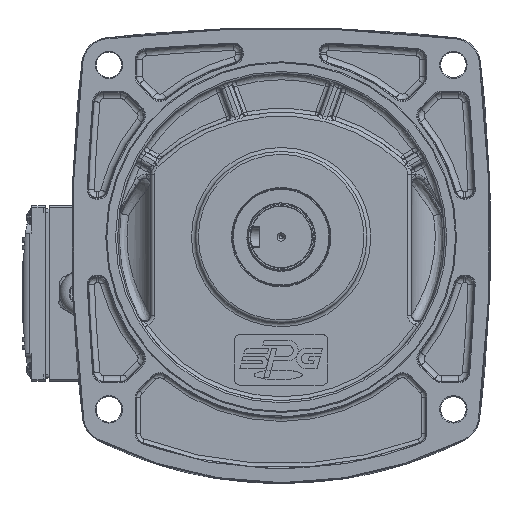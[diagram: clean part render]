
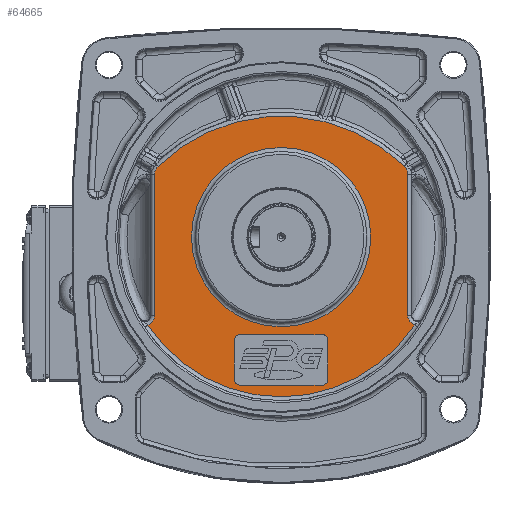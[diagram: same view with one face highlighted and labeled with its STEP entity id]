
A CAD part, top view. The second image highlights one B-rep face of the part: STEP entity #64665.
In plain terms, the highlighted planar face has unit normal (0, 0, 1).
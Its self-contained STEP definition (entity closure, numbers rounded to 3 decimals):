
#1130=B_SPLINE_CURVE_WITH_KNOTS('',3,(#110387,#110388,#110389,#110390,#110391,
#110392),.UNSPECIFIED.,.F.,.F.,(4,1,1,4),(0.,0.372,0.558,
0.621),.UNSPECIFIED.);
#1135=B_SPLINE_CURVE_WITH_KNOTS('',3,(#110520,#110521,#110522,#110523,#110524),
 .UNSPECIFIED.,.F.,.F.,(4,1,4),(0.,0.205,0.478),
 .UNSPECIFIED.);
#1167=B_SPLINE_CURVE_WITH_KNOTS('',3,(#110797,#110798,#110799,#110800,#110801),
 .UNSPECIFIED.,.F.,.F.,(4,1,4),(0.,0.273,0.478),
 .UNSPECIFIED.);
#1236=B_SPLINE_CURVE_WITH_KNOTS('',3,(#112612,#112613,#112614,#112615,#112616),
 .UNSPECIFIED.,.F.,.F.,(4,1,4),(0.682,0.93,1.302),
 .UNSPECIFIED.);
#4210=FACE_BOUND('',#12405,.T.);
#4211=FACE_BOUND('',#12406,.T.);
#5079=PLANE('',#70289);
#8331=FACE_OUTER_BOUND('',#12404,.T.);
#12404=EDGE_LOOP('',(#49466,#49467,#49468,#49469,#49470,#49471,#49472,#49473));
#12405=EDGE_LOOP('',(#49474,#49475,#49476,#49477,#49478,#49479,#49480,#49481));
#12406=EDGE_LOOP('',(#49482));
#16476=CIRCLE('',#70090,46.);
#16555=CIRCLE('',#70215,90.551);
#16607=CIRCLE('',#70290,81.929);
#16608=CIRCLE('',#70291,3.);
#16609=CIRCLE('',#70292,3.);
#16610=CIRCLE('',#70293,3.);
#16611=CIRCLE('',#70294,3.);
#20584=LINE('',#110331,#23870);
#20585=LINE('',#110396,#23871);
#20630=LINE('',#112619,#23916);
#20631=LINE('',#112623,#23917);
#20632=LINE('',#112627,#23918);
#20633=LINE('',#112631,#23919);
#23870=VECTOR('',#82022,10.);
#23871=VECTOR('',#82031,10.);
#23916=VECTOR('',#82498,10.);
#23917=VECTOR('',#82501,10.);
#23918=VECTOR('',#82504,10.);
#23919=VECTOR('',#82507,10.);
#27946=VERTEX_POINT('',#110328);
#27947=VERTEX_POINT('',#110330);
#27948=VERTEX_POINT('',#110373);
#27949=VERTEX_POINT('',#110385);
#27950=VERTEX_POINT('',#110394);
#27960=VERTEX_POINT('',#110421);
#27979=VERTEX_POINT('',#110518);
#28019=VERTEX_POINT('',#110796);
#28111=VERTEX_POINT('',#112610);
#28112=VERTEX_POINT('',#112617);
#28113=VERTEX_POINT('',#112618);
#28114=VERTEX_POINT('',#112620);
#28115=VERTEX_POINT('',#112622);
#28116=VERTEX_POINT('',#112624);
#28117=VERTEX_POINT('',#112626);
#28118=VERTEX_POINT('',#112628);
#28119=VERTEX_POINT('',#112630);
#35386=EDGE_CURVE('',#27946,#27947,#20584,.T.);
#35390=EDGE_CURVE('',#27949,#27948,#1130,.T.);
#35392=EDGE_CURVE('',#27950,#27949,#20585,.T.);
#35405=EDGE_CURVE('',#27960,#27960,#16476,.T.);
#35432=EDGE_CURVE('',#27979,#27950,#1135,.T.);
#35479=EDGE_CURVE('',#27947,#28019,#1167,.T.);
#35595=EDGE_CURVE('',#28019,#27979,#16555,.T.);
#35679=EDGE_CURVE('',#27948,#28111,#16607,.T.);
#35680=EDGE_CURVE('',#28111,#27946,#1236,.T.);
#35681=EDGE_CURVE('',#28112,#28113,#20630,.T.);
#35682=EDGE_CURVE('',#28114,#28113,#16608,.T.);
#35683=EDGE_CURVE('',#28114,#28115,#20631,.T.);
#35684=EDGE_CURVE('',#28116,#28115,#16609,.T.);
#35685=EDGE_CURVE('',#28116,#28117,#20632,.T.);
#35686=EDGE_CURVE('',#28118,#28117,#16610,.T.);
#35687=EDGE_CURVE('',#28118,#28119,#20633,.T.);
#35688=EDGE_CURVE('',#28112,#28119,#16611,.T.);
#49466=ORIENTED_EDGE('',*,*,#35679,.F.);
#49467=ORIENTED_EDGE('',*,*,#35390,.F.);
#49468=ORIENTED_EDGE('',*,*,#35392,.F.);
#49469=ORIENTED_EDGE('',*,*,#35432,.F.);
#49470=ORIENTED_EDGE('',*,*,#35595,.F.);
#49471=ORIENTED_EDGE('',*,*,#35479,.F.);
#49472=ORIENTED_EDGE('',*,*,#35386,.F.);
#49473=ORIENTED_EDGE('',*,*,#35680,.F.);
#49474=ORIENTED_EDGE('',*,*,#35681,.T.);
#49475=ORIENTED_EDGE('',*,*,#35682,.F.);
#49476=ORIENTED_EDGE('',*,*,#35683,.T.);
#49477=ORIENTED_EDGE('',*,*,#35684,.F.);
#49478=ORIENTED_EDGE('',*,*,#35685,.T.);
#49479=ORIENTED_EDGE('',*,*,#35686,.F.);
#49480=ORIENTED_EDGE('',*,*,#35687,.T.);
#49481=ORIENTED_EDGE('',*,*,#35688,.F.);
#49482=ORIENTED_EDGE('',*,*,#35405,.F.);
#64665=ADVANCED_FACE('',(#8331,#4210,#4211),#5079,.F.);
#70090=AXIS2_PLACEMENT_3D('',#110423,#82058,#82059);
#70215=AXIS2_PLACEMENT_3D('',#111765,#82339,#82340);
#70289=AXIS2_PLACEMENT_3D('',#112609,#82494,#82495);
#70290=AXIS2_PLACEMENT_3D('',#112611,#82496,#82497);
#70291=AXIS2_PLACEMENT_3D('',#112621,#82499,#82500);
#70292=AXIS2_PLACEMENT_3D('',#112625,#82502,#82503);
#70293=AXIS2_PLACEMENT_3D('',#112629,#82505,#82506);
#70294=AXIS2_PLACEMENT_3D('',#112632,#82508,#82509);
#82022=DIRECTION('',(0.,1.,0.));
#82031=DIRECTION('',(0.,-1.,0.));
#82058=DIRECTION('center_axis',(0.,0.,1.));
#82059=DIRECTION('ref_axis',(-1.,0.,0.));
#82339=DIRECTION('center_axis',(0.,0.,-1.));
#82340=DIRECTION('ref_axis',(0.,1.,0.));
#82494=DIRECTION('center_axis',(0.,0.,-1.));
#82495=DIRECTION('ref_axis',(-1.,0.,0.));
#82496=DIRECTION('center_axis',(0.,0.,-1.));
#82497=DIRECTION('ref_axis',(0.,-1.,0.));
#82498=DIRECTION('',(0.,1.,0.));
#82499=DIRECTION('center_axis',(0.,0.,1.));
#82500=DIRECTION('ref_axis',(-0.707,0.707,0.));
#82501=DIRECTION('',(1.,0.,0.));
#82502=DIRECTION('center_axis',(0.,0.,1.));
#82503=DIRECTION('ref_axis',(0.707,0.707,0.));
#82504=DIRECTION('',(0.,-1.,0.));
#82505=DIRECTION('center_axis',(0.,0.,1.));
#82506=DIRECTION('ref_axis',(0.707,-0.707,0.));
#82507=DIRECTION('',(-1.,0.,0.));
#82508=DIRECTION('center_axis',(0.,0.,1.));
#82509=DIRECTION('ref_axis',(-0.707,-0.707,0.));
#110328=CARTESIAN_POINT('',(-43.229,-70.322,44.002));
#110330=CARTESIAN_POINT('',(-43.229,2.07,44.002));
#110331=CARTESIAN_POINT('',(-43.229,-100.24,44.002));
#110373=CARTESIAN_POINT('',(90.18,-75.074,44.002));
#110385=CARTESIAN_POINT('',(86.771,-70.322,44.002));
#110387=CARTESIAN_POINT('Ctrl Pts',(86.771,-70.322,
44.002));
#110388=CARTESIAN_POINT('Ctrl Pts',(86.771,-71.562,
44.002));
#110389=CARTESIAN_POINT('Ctrl Pts',(87.501,-73.424,
44.002));
#110390=CARTESIAN_POINT('Ctrl Pts',(89.21,-74.686,
44.002));
#110391=CARTESIAN_POINT('Ctrl Pts',(89.983,-75.002,
44.002));
#110392=CARTESIAN_POINT('Ctrl Pts',(90.182,-75.068,
44.002));
#110394=CARTESIAN_POINT('',(86.771,2.07,44.002));
#110396=CARTESIAN_POINT('',(86.771,-100.24,44.002));
#110421=CARTESIAN_POINT('',(67.771,-29.99,44.002));
#110423=CARTESIAN_POINT('Origin',(21.771,-29.99,44.002));
#110518=CARTESIAN_POINT('',(84.957,6.373,44.002));
#110520=CARTESIAN_POINT('Ctrl Pts',(84.957,6.373,44.002));
#110521=CARTESIAN_POINT('Ctrl Pts',(85.445,5.896,44.002));
#110522=CARTESIAN_POINT('Ctrl Pts',(86.406,4.571,44.002));
#110523=CARTESIAN_POINT('Ctrl Pts',(86.771,2.98,44.002));
#110524=CARTESIAN_POINT('Ctrl Pts',(86.771,2.07,44.002));
#110796=CARTESIAN_POINT('',(-41.414,6.373,44.002));
#110797=CARTESIAN_POINT('Ctrl Pts',(-43.229,2.07,44.002));
#110798=CARTESIAN_POINT('Ctrl Pts',(-43.229,2.98,44.002));
#110799=CARTESIAN_POINT('Ctrl Pts',(-42.863,4.571,
44.002));
#110800=CARTESIAN_POINT('Ctrl Pts',(-41.903,5.896,
44.002));
#110801=CARTESIAN_POINT('Ctrl Pts',(-41.414,6.373,
44.002));
#111765=CARTESIAN_POINT('Origin',(21.771,-58.49,44.002));
#112609=CARTESIAN_POINT('Origin',(21.771,-58.49,44.002));
#112610=CARTESIAN_POINT('',(-46.638,-75.074,44.002));
#112611=CARTESIAN_POINT('Origin',(21.771,-29.99,44.002));
#112612=CARTESIAN_POINT('Ctrl Pts',(-46.639,-75.069,
44.002));
#112613=CARTESIAN_POINT('Ctrl Pts',(-45.85,-74.8,
44.002));
#112614=CARTESIAN_POINT('Ctrl Pts',(-44.039,-73.641,
44.002));
#112615=CARTESIAN_POINT('Ctrl Pts',(-43.229,-71.562,
44.002));
#112616=CARTESIAN_POINT('Ctrl Pts',(-43.229,-70.322,
44.002));
#112617=CARTESIAN_POINT('',(-2.229,-102.99,44.002));
#112618=CARTESIAN_POINT('',(-2.229,-82.99,44.002));
#112619=CARTESIAN_POINT('',(-2.229,-69.24,44.002));
#112620=CARTESIAN_POINT('',(0.771,-79.99,44.002));
#112621=CARTESIAN_POINT('Origin',(0.771,-82.99,44.002));
#112622=CARTESIAN_POINT('',(42.771,-79.99,44.002));
#112623=CARTESIAN_POINT('',(33.771,-79.99,44.002));
#112624=CARTESIAN_POINT('',(45.771,-82.99,44.002));
#112625=CARTESIAN_POINT('Origin',(42.771,-82.99,44.002));
#112626=CARTESIAN_POINT('',(45.771,-102.99,44.002));
#112627=CARTESIAN_POINT('',(45.771,-82.24,44.002));
#112628=CARTESIAN_POINT('',(42.771,-105.99,44.002));
#112629=CARTESIAN_POINT('Origin',(42.771,-102.99,44.002));
#112630=CARTESIAN_POINT('',(0.771,-105.99,44.002));
#112631=CARTESIAN_POINT('',(9.771,-105.99,44.002));
#112632=CARTESIAN_POINT('Origin',(0.771,-102.99,44.002));
